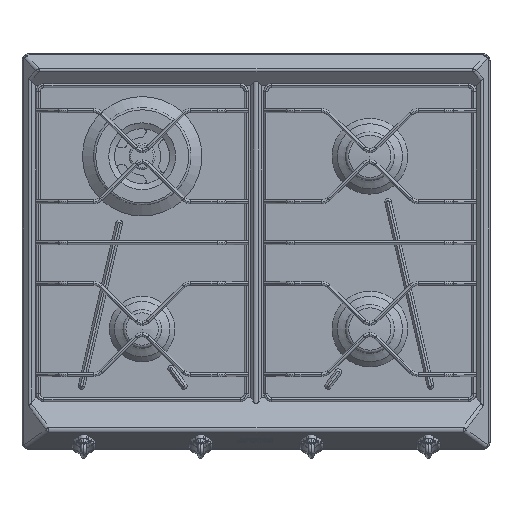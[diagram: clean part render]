
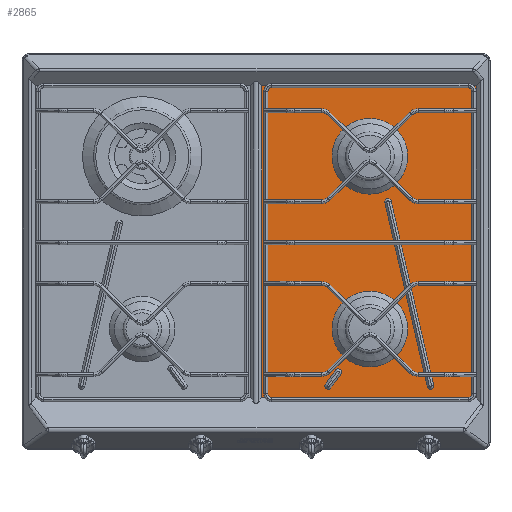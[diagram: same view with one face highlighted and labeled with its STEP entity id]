
A CAD part, top view. The second image highlights one B-rep face of the part: STEP entity #2865.
In plain terms, the highlighted planar face has unit normal (0, 0, 1).
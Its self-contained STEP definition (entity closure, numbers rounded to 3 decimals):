
#1788=FACE_BOUND('',#5436,.T.);
#1789=FACE_BOUND('',#5437,.T.);
#1790=FACE_BOUND('',#5438,.T.);
#1791=FACE_BOUND('',#5439,.T.);
#1792=FACE_BOUND('',#5440,.T.);
#2865=ADVANCED_FACE('',(#1788,#1789,#1790,#1791,#1792),#3265,.T.);
#3265=PLANE('',#19641);
#5436=EDGE_LOOP('',(#10179,#10180,#10181,#10182));
#5437=EDGE_LOOP('',(#10183,#10184,#10185,#10186));
#5438=EDGE_LOOP('',(#10187));
#5439=EDGE_LOOP('',(#10188));
#5440=EDGE_LOOP('',(#10189,#10190,#10191,#10192));
#10179=ORIENTED_EDGE('',*,*,#14440,.F.);
#10180=ORIENTED_EDGE('',*,*,#14441,.F.);
#10181=ORIENTED_EDGE('',*,*,#14442,.F.);
#10182=ORIENTED_EDGE('',*,*,#14443,.F.);
#10183=ORIENTED_EDGE('',*,*,#14444,.F.);
#10184=ORIENTED_EDGE('',*,*,#14445,.F.);
#10185=ORIENTED_EDGE('',*,*,#14446,.F.);
#10186=ORIENTED_EDGE('',*,*,#14447,.F.);
#10187=ORIENTED_EDGE('',*,*,#14448,.F.);
#10188=ORIENTED_EDGE('',*,*,#14449,.F.);
#10189=ORIENTED_EDGE('',*,*,#14450,.T.);
#10190=ORIENTED_EDGE('',*,*,#14451,.T.);
#10191=ORIENTED_EDGE('',*,*,#14452,.F.);
#10192=ORIENTED_EDGE('',*,*,#14453,.T.);
#12005=VERTEX_POINT('',#34492);
#12006=VERTEX_POINT('',#34493);
#12007=VERTEX_POINT('',#34495);
#12008=VERTEX_POINT('',#34497);
#12009=VERTEX_POINT('',#34500);
#12010=VERTEX_POINT('',#34501);
#12011=VERTEX_POINT('',#34503);
#12012=VERTEX_POINT('',#34505);
#12013=VERTEX_POINT('',#34508);
#12014=VERTEX_POINT('',#34510);
#12015=VERTEX_POINT('',#34512);
#12016=VERTEX_POINT('',#34513);
#12017=VERTEX_POINT('',#34515);
#12018=VERTEX_POINT('',#34517);
#14440=EDGE_CURVE('',#12005,#12006,#15581,.T.);
#14441=EDGE_CURVE('',#12007,#12005,#16701,.T.);
#14442=EDGE_CURVE('',#12008,#12007,#15582,.T.);
#14443=EDGE_CURVE('',#12006,#12008,#16702,.T.);
#14444=EDGE_CURVE('',#12009,#12010,#15583,.T.);
#14445=EDGE_CURVE('',#12011,#12009,#16703,.T.);
#14446=EDGE_CURVE('',#12012,#12011,#15584,.T.);
#14447=EDGE_CURVE('',#12010,#12012,#16704,.T.);
#14448=EDGE_CURVE('',#12013,#12013,#15585,.T.);
#14449=EDGE_CURVE('',#12014,#12014,#15586,.T.);
#14450=EDGE_CURVE('',#12015,#12016,#16705,.T.);
#14451=EDGE_CURVE('',#12016,#12017,#16706,.T.);
#14452=EDGE_CURVE('',#12018,#12017,#16707,.T.);
#14453=EDGE_CURVE('',#12018,#12015,#16708,.T.);
#15581=CIRCLE('',#19635,4.2);
#15582=CIRCLE('',#19636,4.2);
#15583=CIRCLE('',#19637,4.2);
#15584=CIRCLE('',#19638,4.2);
#15585=CIRCLE('',#19639,48.2);
#15586=CIRCLE('',#19640,48.2);
#16701=LINE('',#34494,#17681);
#16702=LINE('',#34498,#17682);
#16703=LINE('',#34502,#17683);
#16704=LINE('',#34506,#17684);
#16705=LINE('',#34511,#17685);
#16706=LINE('',#34514,#17686);
#16707=LINE('',#34516,#17687);
#16708=LINE('',#34518,#17688);
#17681=VECTOR('',#24479,1.);
#17682=VECTOR('',#24482,1.);
#17683=VECTOR('',#24485,1.);
#17684=VECTOR('',#24488,1.);
#17685=VECTOR('',#24493,1.);
#17686=VECTOR('',#24494,1.);
#17687=VECTOR('',#24495,1.);
#17688=VECTOR('',#24496,1.);
#19635=AXIS2_PLACEMENT_3D('',#34491,#24477,#24478);
#19636=AXIS2_PLACEMENT_3D('',#34496,#24480,#24481);
#19637=AXIS2_PLACEMENT_3D('',#34499,#24483,#24484);
#19638=AXIS2_PLACEMENT_3D('',#34504,#24486,#24487);
#19639=AXIS2_PLACEMENT_3D('',#34507,#24489,#24490);
#19640=AXIS2_PLACEMENT_3D('',#34509,#24491,#24492);
#19641=AXIS2_PLACEMENT_3D('',#34519,#24497,#24498);
#24477=DIRECTION('',(0.,0.,1.));
#24478=DIRECTION('',(1.,0.,0.));
#24479=DIRECTION('',(0.225,-0.974,0.));
#24480=DIRECTION('',(0.,0.,1.));
#24481=DIRECTION('',(1.,0.,0.));
#24482=DIRECTION('',(-0.225,0.974,0.));
#24483=DIRECTION('',(0.,0.,1.));
#24484=DIRECTION('',(1.,0.,0.));
#24485=DIRECTION('',(-0.588,-0.809,0.));
#24486=DIRECTION('',(0.,0.,1.));
#24487=DIRECTION('',(1.,0.,0.));
#24488=DIRECTION('',(0.588,0.809,0.));
#24489=DIRECTION('',(0.,0.,1.));
#24490=DIRECTION('',(1.,0.,0.));
#24491=DIRECTION('',(0.,0.,1.));
#24492=DIRECTION('',(1.,0.,0.));
#24493=DIRECTION('',(-1.,0.,0.));
#24494=DIRECTION('',(0.,-1.,0.));
#24495=DIRECTION('',(-1.,0.,0.));
#24496=DIRECTION('',(0.,1.,0.));
#24497=DIRECTION('',(0.,0.,1.));
#24498=DIRECTION('',(1.,0.,0.));
#34491=CARTESIAN_POINT('',(520.2,80.5,13.));
#34492=CARTESIAN_POINT('',(516.108,79.555,13.));
#34493=CARTESIAN_POINT('',(524.292,81.445,13.));
#34494=CARTESIAN_POINT('',(462.007,313.891,13.));
#34495=CARTESIAN_POINT('',(462.007,313.891,13.));
#34496=CARTESIAN_POINT('',(466.099,314.836,13.));
#34497=CARTESIAN_POINT('',(470.192,315.781,13.));
#34498=CARTESIAN_POINT('',(524.292,81.445,13.));
#34499=CARTESIAN_POINT('',(390.,80.5,13.));
#34500=CARTESIAN_POINT('',(386.602,82.969,13.));
#34501=CARTESIAN_POINT('',(393.398,78.031,13.));
#34502=CARTESIAN_POINT('',(399.298,100.443,13.));
#34503=CARTESIAN_POINT('',(399.298,100.443,13.));
#34504=CARTESIAN_POINT('',(402.696,97.975,13.));
#34505=CARTESIAN_POINT('',(406.094,95.506,13.));
#34506=CARTESIAN_POINT('',(393.398,78.031,13.));
#34507=CARTESIAN_POINT('',(443.,153.,13.));
#34508=CARTESIAN_POINT('',(491.2,153.,13.));
#34509=CARTESIAN_POINT('',(443.,373.,13.));
#34510=CARTESIAN_POINT('',(491.2,373.,13.));
#34511=CARTESIAN_POINT('',(0.,462.859,13.));
#34512=CARTESIAN_POINT('',(578.515,462.859,13.));
#34513=CARTESIAN_POINT('',(305.115,462.859,13.));
#34514=CARTESIAN_POINT('',(305.115,483.25,13.));
#34515=CARTESIAN_POINT('',(305.115,65.572,13.));
#34516=CARTESIAN_POINT('',(0.,65.572,13.));
#34517=CARTESIAN_POINT('',(578.515,65.572,13.));
#34518=CARTESIAN_POINT('',(578.515,31.75,13.));
#34519=CARTESIAN_POINT('',(0.,0.,13.));
